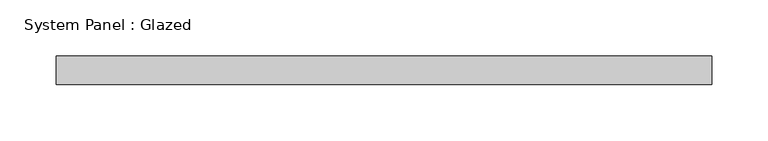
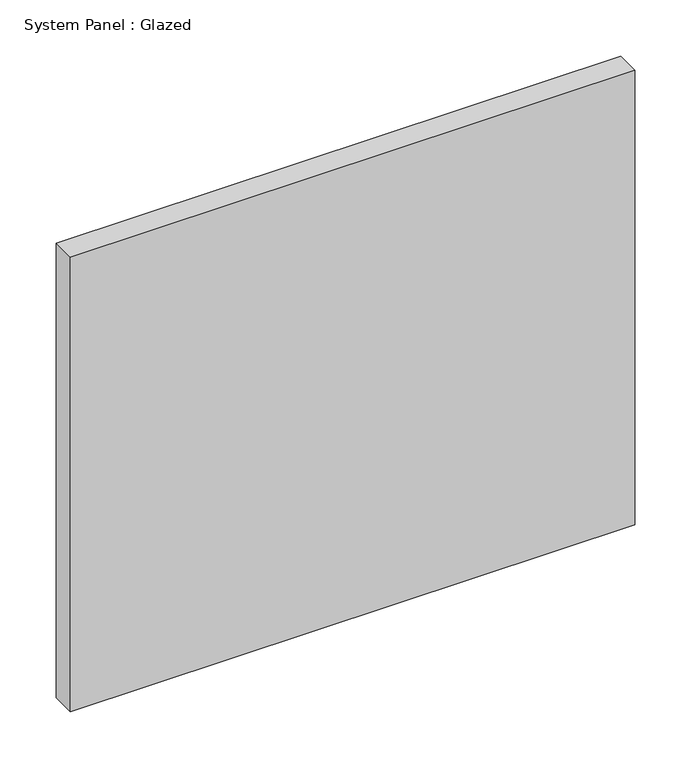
"""IFC4 building model written with IfcOpenShell, lengths in millimetres: plate geometry, System Panel : Glazed."""

from ifc_helpers import new_model, si_unit, origin, origin_with_axes, place, context, project, spatial, polyline, outline, extrude, source, transform, mapped, element, save


def system_panel_glazed_2b9672ea(model_context):
    return source(origin(), model_context, "Body", "SweptSolid", [
        extrude(outline(polyline([(290.83, -12.7), (-290.83, -12.7), (-290.83, 12.7), (290.83, 12.7), (290.83, -12.7)])), origin_with_axes(), (0.0, 0.0, 1.0), 495.3),
    ])


if __name__ == "__main__":
    model = new_model("IFC4")
    model_context = context("Model", 3, world=origin())
    ifc_project = project(units=[si_unit("LENGTHUNIT", "METRE", prefix="MILLI")], contexts=[model_context])
    site = spatial("IfcSite", under=ifc_project)
    building = spatial("IfcBuilding", under=site)
    placement = place(None, origin())
    system_panel_glazed_shape = system_panel_glazed_2b9672ea(model_context)
    element("IfcPlate", 1, ObjectType="System Panel : Glazed", at=placement, inside=building, context=model_context, shape_type="MappedRepresentation", body=[
        mapped(system_panel_glazed_shape, transform((0.0, 0.0, 0.0), x_axis=(1.0, 0.0, 0.0), y_axis=(0.0, 1.0, 0.0), z_axis=(0.0, 0.0, 1.0))),
    ])
    save(model, "model.ifc")
